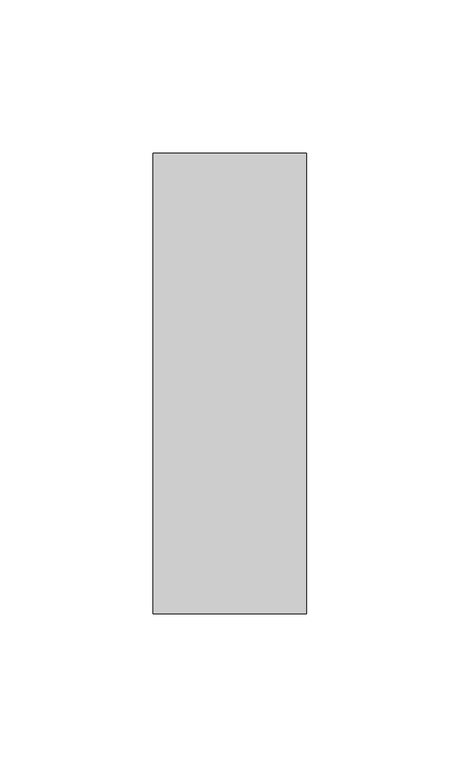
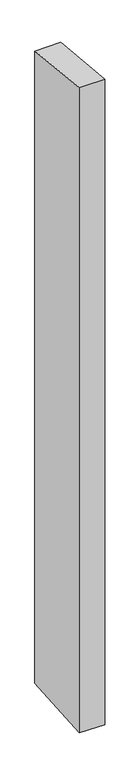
"""IFC4 building model written with IfcOpenShell, lengths in millimetres: member geometry, Прямоугольный импост : 50 x 150 мм."""

from ifc_helpers import new_model, si_unit, origin, place, context, project, spatial, faceted_brep, source, transform, mapped, element, save


def member_b98c439f(model_context):
    return source(origin(), model_context, "Body", "Brep", [
        faceted_brep([(-25.0, 75.0, -7.9691591), (25.0, 75.0, -7.5337416), (25.0, 75.0, -1311.8358433), (-25.0, 75.0, -1311.4132862), (-25.0, -75.0, 7.5337416), (-25.0, -75.0, -1323.270945), (25.0, -75.0, 7.9691591), (25.0, -75.0, -1323.6935021)], [[[0, 1, 2, 3]], [[4, 0, 3, 5]], [[6, 4, 5, 7]], [[1, 6, 7, 2]], [[1, 0, 4, 6]], [[2, 7, 5, 3]]]),
    ])


if __name__ == "__main__":
    model = new_model("IFC4")
    model_context = context("Model", 3, world=origin())
    ifc_project = project(units=[si_unit("LENGTHUNIT", "METRE", prefix="MILLI")], contexts=[model_context])
    site = spatial("IfcSite", under=ifc_project)
    building = spatial("IfcBuilding", under=site)
    placement = place(None, origin())
    member_shape = member_b98c439f(model_context)
    element("IfcMember", 1, ObjectType="Прямоугольный импост : 50 x 150 мм", at=placement, inside=building, context=model_context, shape_type="MappedRepresentation", body=[
        mapped(member_shape, transform((0.0, 0.0, 0.0), x_axis=(1.0, 0.0, 0.0), y_axis=(0.0, 1.0, 0.0), z_axis=(0.0, 0.0, 1.0))),
    ])
    save(model, "model.ifc")
